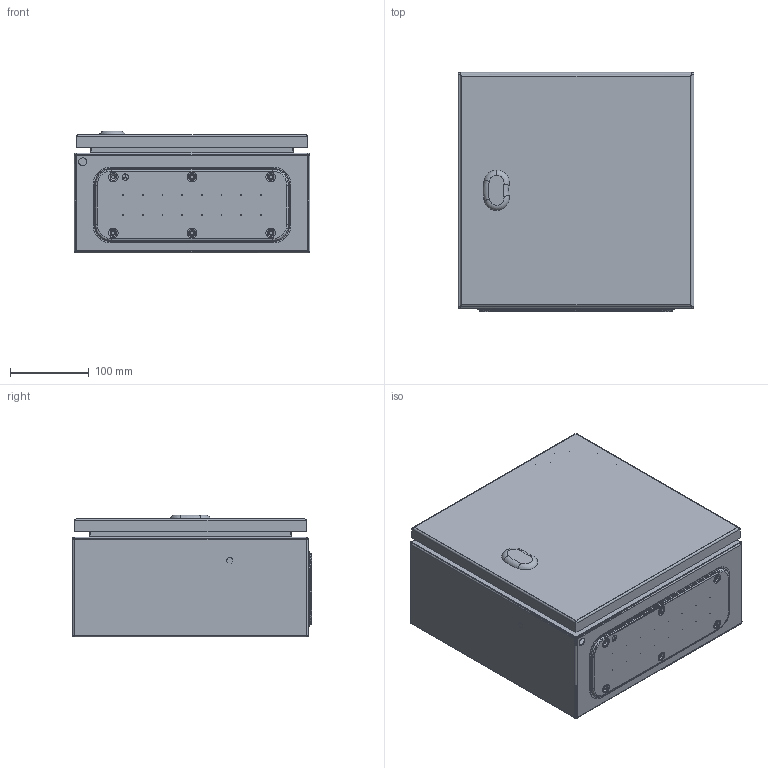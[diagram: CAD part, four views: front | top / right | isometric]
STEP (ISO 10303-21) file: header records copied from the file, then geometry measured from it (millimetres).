
FILE_DESCRIPTION (( 'STEP AP203' ), '1' );
FILE_NAME ('0300x0300x0150 dx.step', '2021-09-07T06:39:57', ( '' ), ( '' ), 'SwSTEP 2.0', 'SolidWorks 2021', '' );
FILE_SCHEMA (( 'CONFIG_CONTROL_DESIGN' ));
Length unit declared in the file: millimetre
Products named in the file (7): AR_ECOR_involucro_0300x0300x0150; AR_ECOR_chiusura_std_STD; 0300x0300x0150 dx; AR_ECOR_montaggio_porta_singola_0300x0300; AR_ECOR_flangia IC_02; AR_ECOR_Piastra_03; AR_ECOR_porta_singola_0300x0300
Assembly tree (6 placements, depth 3):
  0300x0300x0150 dx
    AR_ECOR_involucro_0300x0300x0150
    AR_ECOR_montaggio_porta_singola_0300x0300
      AR_ECOR_porta_singola_0300x0300
      AR_ECOR_chiusura_std_STD
    AR_ECOR_flangia IC_02
    AR_ECOR_Piastra_03
Bounding box: 300 x 304 x 155 mm (x, y, z)
Volume: 704502.2 mm3; surface area: 964155.3 mm2
Topology: 5 solids, 5 shells, 574 faces, 1421 edges, 882 vertices
Faces by surface type: cylinder 272, plane 177, cone 48, torus 33, bspline 28, sphere 16
Entity records: 18694 total; most frequent: CARTESIAN_POINT 4078, DIRECTION 3056, ORIENTED_EDGE 2802, EDGE_CURVE 1401, AXIS2_PLACEMENT_3D 1195, VERTEX_POINT 882, EDGE_LOOP 723, VECTOR 666
